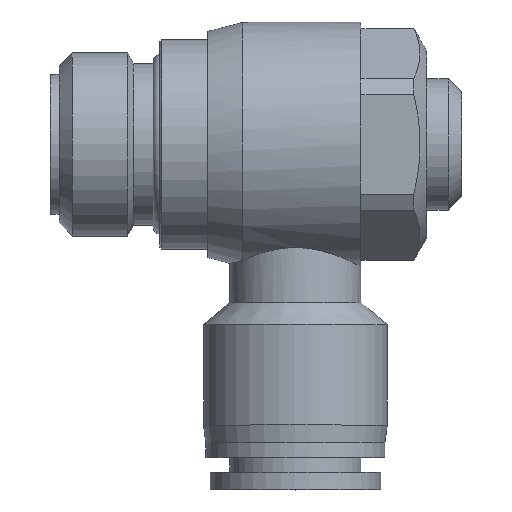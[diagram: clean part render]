
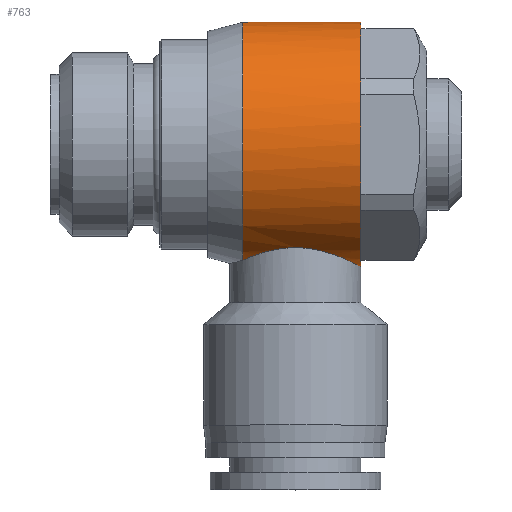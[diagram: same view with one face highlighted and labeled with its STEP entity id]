
A CAD part, top view. The second image highlights one B-rep face of the part: STEP entity #763.
In plain terms, the highlighted cylindrical face has radius 14 mm (diameter 28 mm), a full revolution.
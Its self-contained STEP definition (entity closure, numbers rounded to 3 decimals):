
#121=CYLINDRICAL_SURFACE('',#827,14.);
#180=B_SPLINE_CURVE_WITH_KNOTS('',3,(#1186,#1187,#1188,#1189,#1190,#1191,
#1192,#1193,#1194,#1195,#1196,#1197,#1198,#1199,#1200,#1201),
 .UNSPECIFIED.,.F.,.F.,(4,2,2,2,2,2,2,4),(1.157,1.446,
1.735,2.025,2.314,2.604,2.894,
3.002),.UNSPECIFIED.);
#181=B_SPLINE_CURVE_WITH_KNOTS('',3,(#1204,#1205,#1206,#1207,#1208,#1209,
#1210,#1211,#1212,#1213),.UNSPECIFIED.,.F.,.F.,(4,2,2,2,4),(0.,0.29,
0.58,0.868,1.157),.UNSPECIFIED.);
#182=B_SPLINE_CURVE_WITH_KNOTS('',3,(#1214,#1215,#1216,#1217,#1218,#1219,
#1220,#1221),.UNSPECIFIED.,.F.,.F.,(4,2,2,4),(3.941,4.049,
4.339,4.629),.UNSPECIFIED.);
#185=FACE_OUTER_BOUND('',#246,.T.);
#246=EDGE_LOOP('',(#556,#557,#558,#559,#560));
#345=CIRCLE('',#826,14.);
#346=CIRCLE('',#828,14.);
#388=VERTEX_POINT('',#1171);
#389=VERTEX_POINT('',#1172);
#390=VERTEX_POINT('',#1185);
#391=VERTEX_POINT('',#1203);
#463=EDGE_CURVE('',#388,#389,#345,.T.);
#464=EDGE_CURVE('',#390,#388,#180,.T.);
#465=EDGE_CURVE('',#390,#390,#346,.T.);
#466=EDGE_CURVE('',#391,#390,#181,.T.);
#467=EDGE_CURVE('',#389,#391,#182,.T.);
#556=ORIENTED_EDGE('',*,*,#463,.F.);
#557=ORIENTED_EDGE('',*,*,#464,.F.);
#558=ORIENTED_EDGE('',*,*,#465,.T.);
#559=ORIENTED_EDGE('',*,*,#466,.F.);
#560=ORIENTED_EDGE('',*,*,#467,.F.);
#763=ADVANCED_FACE('',(#185),#121,.T.);
#826=AXIS2_PLACEMENT_3D('',#1183,#933,#934);
#827=AXIS2_PLACEMENT_3D('',#1184,#935,#936);
#828=AXIS2_PLACEMENT_3D('',#1202,#937,#938);
#933=DIRECTION('center_axis',(-1.,0.,0.));
#934=DIRECTION('ref_axis',(0.,-1.,0.));
#935=DIRECTION('center_axis',(1.,0.,0.));
#936=DIRECTION('ref_axis',(0.,1.,0.));
#937=DIRECTION('center_axis',(-1.,0.,0.));
#938=DIRECTION('ref_axis',(0.,1.,0.));
#1171=CARTESIAN_POINT('',(-6.,-13.257,4.5));
#1172=CARTESIAN_POINT('',(-6.,-13.257,-4.5));
#1183=CARTESIAN_POINT('Origin',(-6.,0.,0.));
#1184=CARTESIAN_POINT('Origin',(2.5,0.,0.));
#1185=CARTESIAN_POINT('',(7.5,-14.,0.));
#1186=CARTESIAN_POINT('Ctrl Pts',(7.5,-14.,0.));
#1187=CARTESIAN_POINT('Ctrl Pts',(7.5,-14.,0.963));
#1188=CARTESIAN_POINT('Ctrl Pts',(7.304,-13.892,1.976));
#1189=CARTESIAN_POINT('Ctrl Pts',(6.532,-13.502,3.819));
#1190=CARTESIAN_POINT('Ctrl Pts',(5.957,-13.224,4.65));
#1191=CARTESIAN_POINT('Ctrl Pts',(4.647,-12.688,5.96));
#1192=CARTESIAN_POINT('Ctrl Pts',(3.817,-12.391,6.532));
#1193=CARTESIAN_POINT('Ctrl Pts',(1.978,-11.953,7.303));
#1194=CARTESIAN_POINT('Ctrl Pts',(0.966,-11.822,7.5));
#1195=CARTESIAN_POINT('Ctrl Pts',(-0.966,-11.822,
7.5));
#1196=CARTESIAN_POINT('Ctrl Pts',(-1.978,-11.953,7.303));
#1197=CARTESIAN_POINT('Ctrl Pts',(-3.817,-12.391,6.532));
#1198=CARTESIAN_POINT('Ctrl Pts',(-4.647,-12.688,5.96));
#1199=CARTESIAN_POINT('Ctrl Pts',(-5.548,-13.057,5.058));
#1200=CARTESIAN_POINT('Ctrl Pts',(-5.783,-13.159,4.79));
#1201=CARTESIAN_POINT('Ctrl Pts',(-6.,-13.257,4.5));
#1202=CARTESIAN_POINT('Origin',(7.5,0.,0.));
#1203=CARTESIAN_POINT('',(0.,-11.822,-7.5));
#1204=CARTESIAN_POINT('Ctrl Pts',(0.,-11.822,
-7.5));
#1205=CARTESIAN_POINT('Ctrl Pts',(0.966,-11.822,-7.5));
#1206=CARTESIAN_POINT('Ctrl Pts',(1.978,-11.953,-7.303));
#1207=CARTESIAN_POINT('Ctrl Pts',(3.817,-12.391,-6.532));
#1208=CARTESIAN_POINT('Ctrl Pts',(4.647,-12.688,-5.96));
#1209=CARTESIAN_POINT('Ctrl Pts',(5.957,-13.224,-4.65));
#1210=CARTESIAN_POINT('Ctrl Pts',(6.532,-13.502,-3.819));
#1211=CARTESIAN_POINT('Ctrl Pts',(7.304,-13.892,-1.976));
#1212=CARTESIAN_POINT('Ctrl Pts',(7.5,-14.,-0.963));
#1213=CARTESIAN_POINT('Ctrl Pts',(7.5,-14.,0.));
#1214=CARTESIAN_POINT('Ctrl Pts',(-6.,-13.257,-4.5));
#1215=CARTESIAN_POINT('Ctrl Pts',(-5.783,-13.159,-4.79));
#1216=CARTESIAN_POINT('Ctrl Pts',(-5.548,-13.057,-5.058));
#1217=CARTESIAN_POINT('Ctrl Pts',(-4.647,-12.688,-5.96));
#1218=CARTESIAN_POINT('Ctrl Pts',(-3.817,-12.391,-6.532));
#1219=CARTESIAN_POINT('Ctrl Pts',(-1.978,-11.953,-7.303));
#1220=CARTESIAN_POINT('Ctrl Pts',(-0.966,-11.822,
-7.5));
#1221=CARTESIAN_POINT('Ctrl Pts',(0.,-11.822,
-7.5));
